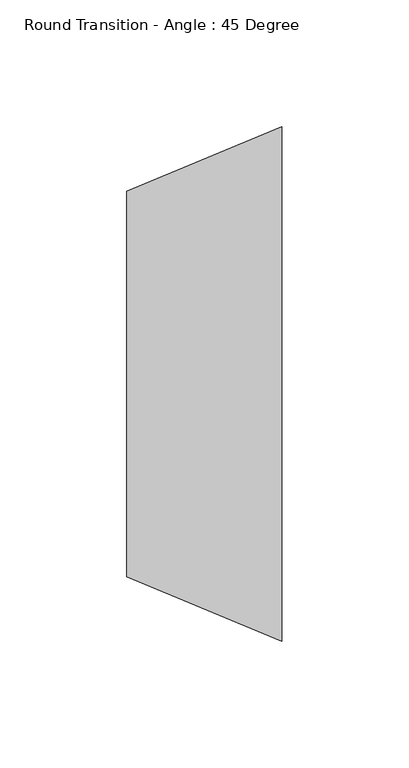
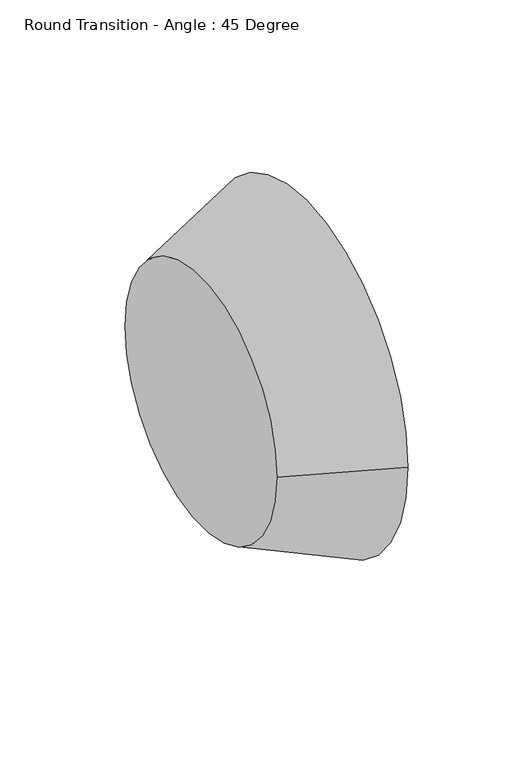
"""IFC4 building model written with IfcOpenShell, lengths in millimetres: duct fitting geometry, Round Transition - Angle : 45 Degree."""

from ifc_helpers import new_model, si_unit, frame, origin, place, context, project, spatial, polyline, circle_curve, source, transform, mapped, element, save
from ifc_brep_helpers import plane_surface, revolved_surface, advanced_brep


def round_transition_angle_45_degree_998e22e1(model_context):
    return source(origin(), model_context, "Body", "AdvancedBrep", [
        advanced_brep(
        [(61.3210245, -101.6, 0.0), (61.3210245, 101.6, 0.0), (0.0, -76.2, 0.0), (0.0, 76.2, 0.0)],
        [
            (0, 1, circle_curve(frame((61.3210245, 0.0, 0.0), z_axis=(1.0, 0.0, 0.0), x_axis=(0.0, -1.0, 0.0)), 101.6)),
            (1, 0, circle_curve(frame((61.3210245, 0.0, 0.0), z_axis=(1.0, 0.0, 0.0), x_axis=(0.0, 1.0, 0.0)), 101.6)),
            (2, 3, circle_curve(frame((0.0, 0.0, 0.0), z_axis=(-1.0, 0.0, 0.0), x_axis=(0.0, 1.0, 0.0)), 76.2)),
            (3, 2, circle_curve(frame((0.0, 0.0, 0.0), z_axis=(-1.0, 0.0, 0.0), x_axis=(0.0, -1.0, 0.0)), 76.2)),
            (3, 1),
            (0, 2),
        ],
        [
            plane_surface(frame((61.3210245, 0.0, 0.0), z_axis=(1.0, 0.0, 0.0), x_axis=(0.0, 0.0, -1.0))),
            plane_surface(frame((0.0, 0.0, 0.0), z_axis=(-1.0, 0.0, 0.0), x_axis=(0.0, 0.0, -1.0))),
            revolved_surface(polyline([(0.0, 76.19999999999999, 0.0), (61.32102449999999, 101.6, 0.0)]), (-183.9630735, 0.0, 0.0), (1.0, 0.0, 0.0)),
            revolved_surface(polyline([(0.0, -76.19999999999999, 0.0), (61.32102449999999, -101.6, 0.0)]), (-183.9630735, 0.0, 0.0), (1.0, 0.0, 0.0)),
        ],
        [
            (0, [[1, 2]]),
            (1, [[3, 4]]),
            (2, [[-4, 5, -1, 6]]),
            (3, [[-3, -6, -2, -5]]),
        ],
    ),
    ])


if __name__ == "__main__":
    model = new_model("IFC4")
    model_context = context("Model", 3, world=origin())
    ifc_project = project(units=[si_unit("LENGTHUNIT", "METRE", prefix="MILLI")], contexts=[model_context])
    site = spatial("IfcSite", under=ifc_project)
    building = spatial("IfcBuilding", under=site)
    placement = place(None, origin())
    round_transition_angle_45_degree_shape = round_transition_angle_45_degree_998e22e1(model_context)
    element("IfcDuctFitting", 1, ObjectType="Round Transition - Angle : 45 Degree", at=placement, inside=building, context=model_context, shape_type="MappedRepresentation", body=[
        mapped(round_transition_angle_45_degree_shape, transform((0.0, 0.0, 0.0), x_axis=(1.0, 0.0, 0.0), y_axis=(0.0, 1.0, 0.0), z_axis=(0.0, 0.0, 1.0))),
    ])
    save(model, "model.ifc")
